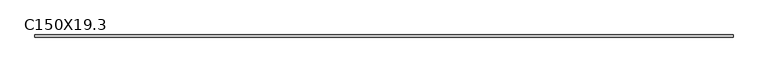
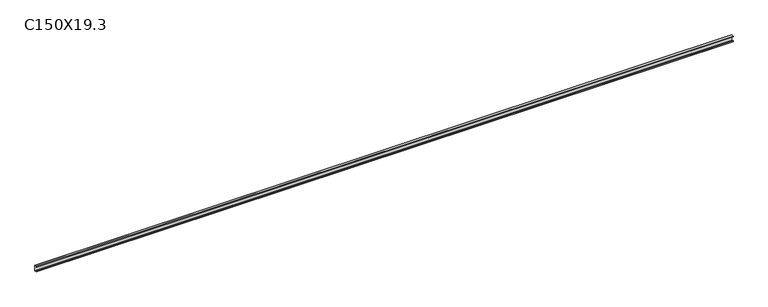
"""IFC4 building model written with IfcOpenShell, lengths in millimetres: beam geometry, EST-PER-C-HGalv : C150X19.3."""

from ifc_helpers import new_model, si_unit, frame, origin, place, context, project, spatial, polyline, outline, extrude, source, transform, mapped, element, save


def c150x19_3_1b759e16(model_context):
    return source(origin(), model_context, "Body", "SweptSolid", [
        extrude(outline(polyline([(13.1, 80.0), (13.1, -80.0), (-46.9, -80.0), (-46.9, -60.0), (-44.9, -60.0), (-44.9, -78.0), (11.1, -78.0), (11.1, 78.0), (-44.9, 78.0), (-44.9, 60.0), (-46.9, 60.0), (-46.9, 80.0), (13.1, 80.0)])), frame((-10215.0, 0.0, 0.0), z_axis=(1.0, 0.0, 0.0), x_axis=(0.0, 1.0, 0.0)), (0.0, 0.0, 1.0), 19550.0),
    ])


if __name__ == "__main__":
    model = new_model("IFC4")
    model_context = context("Model", 3, world=origin())
    ifc_project = project(units=[si_unit("LENGTHUNIT", "METRE", prefix="MILLI")], contexts=[model_context])
    site = spatial("IfcSite", under=ifc_project)
    building = spatial("IfcBuilding", under=site)
    placement = place(None, origin())
    c150x19_3_shape = c150x19_3_1b759e16(model_context)
    element("IfcBeam", 1, ObjectType="EST-PER-C-HGalv : C150X19.3", at=placement, inside=building, context=model_context, shape_type="MappedRepresentation", body=[
        mapped(c150x19_3_shape, transform((0.0, 0.0, 0.0), x_axis=(1.0, 0.0, 0.0), y_axis=(0.0, 1.0, 0.0), z_axis=(0.0, 0.0, 1.0))),
    ])
    save(model, "model.ifc")
